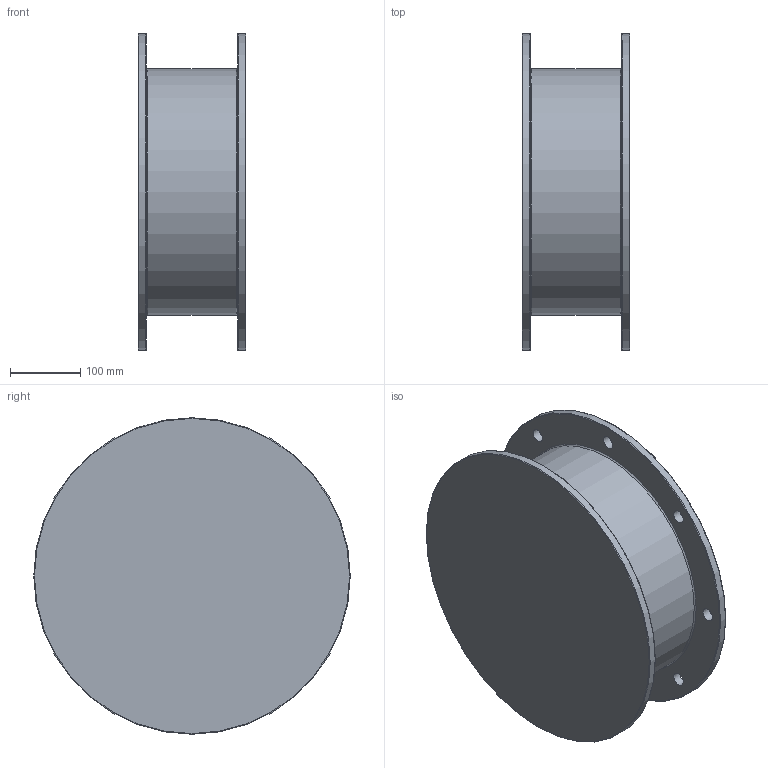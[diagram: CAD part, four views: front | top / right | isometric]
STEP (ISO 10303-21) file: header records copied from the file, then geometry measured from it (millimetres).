
FILE_DESCRIPTION((''),'2;1');
FILE_NAME('C:\Users\oem\Desktop\PAWEŁ\12 PRYWATNE\DualSystem\001 Modele\DKAB120_\DK_120_STEP\225S_B5_L153,5.stp','2011-12-14T16:17:44',('oem'),(''),'Autodesk Inventor 2009','Autodesk Inventor 2009','');
FILE_SCHEMA(('AUTOMOTIVE_DESIGN { 1 0 10303 214 1 1 1 1 }'));
Length unit declared in the file: millimetre
Products named in the file (1): 225S_B5_L153,5
Bounding box: 153.5 x 450 x 450 mm (x, y, z)
Volume: 4016265.8 mm3; surface area: 835087.4 mm2
Topology: 1 solids, 1 shells, 33 faces, 68 edges, 43 vertices
Faces by surface type: plane 11, bspline 10, cylinder 7, torus 5
Full cylindrical faces by diameter (mm): 90 x1, 338 x1, 350 x2, 450 x2
Entity records: 1045 total; most frequent: CARTESIAN_POINT 348, DIRECTION 132, ORIENTED_EDGE 94, EDGE_LOOP 76, AXIS2_PLACEMENT_3D 61, EDGE_CURVE 47, VERTEX_POINT 43, FACE_BOUND 43
